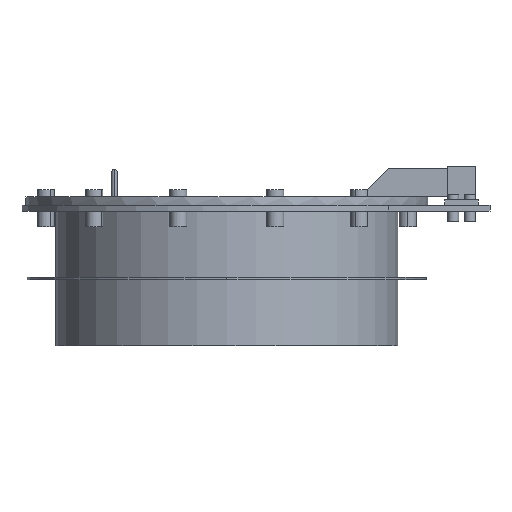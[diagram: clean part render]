
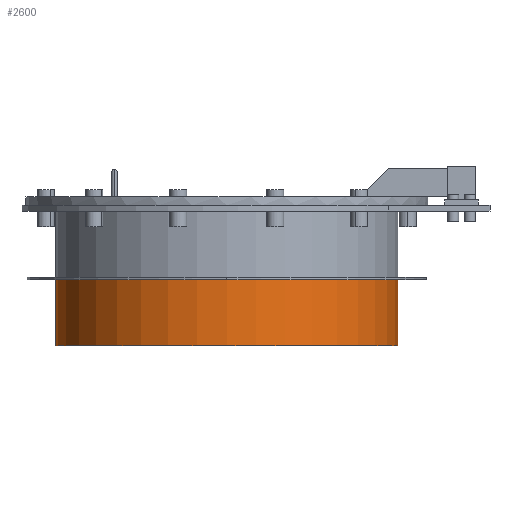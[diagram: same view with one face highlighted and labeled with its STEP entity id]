
A CAD part, front view. The second image highlights one B-rep face of the part: STEP entity #2600.
In plain terms, the highlighted cylindrical face has radius 304 mm (diameter 608 mm), a partial arc.
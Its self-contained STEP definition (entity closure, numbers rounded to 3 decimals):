
#132=CARTESIAN_POINT('',(0.,0.,-250.));
#133=DIRECTION('',(0.,0.,1.));
#134=DIRECTION('',(-1.,0.,0.));
#135=AXIS2_PLACEMENT_3D('',#132,#133,#134);
#160=DIRECTION('',(0.,0.,-1.));
#161=VECTOR('',#160,118.);
#162=CARTESIAN_POINT('',(304.,0.,-132.));
#163=LINE('',#162,#161);
#206=CARTESIAN_POINT('',(0.,0.,-132.));
#207=DIRECTION('',(0.,0.,1.));
#208=DIRECTION('',(-1.,0.,0.));
#209=AXIS2_PLACEMENT_3D('',#206,#207,#208);
#211=DIRECTION('',(0.,0.,-1.));
#212=VECTOR('',#211,118.);
#213=CARTESIAN_POINT('',(-304.,0.,-132.));
#214=LINE('',#213,#212);
#1927=CARTESIAN_POINT('',(304.,0.,-250.));
#1928=CARTESIAN_POINT('',(-304.,0.,-250.));
#1929=VERTEX_POINT('',#1927);
#1930=VERTEX_POINT('',#1928);
#1943=CARTESIAN_POINT('',(304.,0.,-132.));
#1944=CARTESIAN_POINT('',(-304.,0.,-132.));
#1945=VERTEX_POINT('',#1943);
#1946=VERTEX_POINT('',#1944);
#2589=CARTESIAN_POINT('',(0.,0.,0.));
#2590=DIRECTION('',(0.,0.,1.));
#2591=DIRECTION('',(1.,0.,0.));
#2592=AXIS2_PLACEMENT_3D('',#2589,#2590,#2591);
#2593=CYLINDRICAL_SURFACE('',#2592,304.);
#2594=ORIENTED_EDGE('',*,*,#2541,.T.);
#2595=ORIENTED_EDGE('',*,*,#2494,.T.);
#2596=ORIENTED_EDGE('',*,*,#2414,.F.);
#2597=ORIENTED_EDGE('',*,*,#2491,.F.);
#2598=EDGE_LOOP('',(#2594,#2595,#2596,#2597));
#2599=FACE_OUTER_BOUND('',#2598,.F.);
#136=CIRCLE('',#135,304.);
#210=CIRCLE('',#209,304.);
#2414=EDGE_CURVE('',#1930,#1929,#136,.T.);
#2491=EDGE_CURVE('',#1946,#1930,#214,.T.);
#2494=EDGE_CURVE('',#1945,#1929,#163,.T.);
#2541=EDGE_CURVE('',#1946,#1945,#210,.T.);
#2600=ADVANCED_FACE('',(#2599),#2593,.T.);
